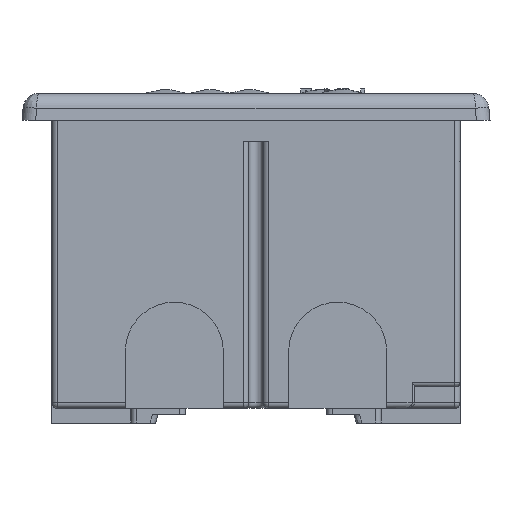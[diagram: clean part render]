
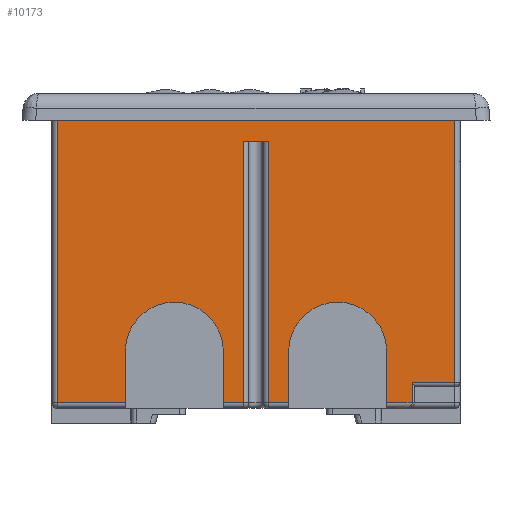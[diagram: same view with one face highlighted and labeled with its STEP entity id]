
A CAD part, front view. The second image highlights one B-rep face of the part: STEP entity #10173.
In plain terms, the highlighted planar face has unit normal (0, -1, 0).
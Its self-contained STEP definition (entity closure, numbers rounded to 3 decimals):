
#649=CIRCLE($,#10666,9.);
#650=CIRCLE($,#10667,9.);
#993=FACE_OUTER_BOUND($,#1373,.T.);
#1373=EDGE_LOOP($,(#7741,#7742,#7743,#7744,#7745,#7746,#7747,#7748,#7749,
#7750,#7751,#7752,#7753,#7754,#7755,#7756,#7757,#7758));
#1849=LINE($,#14162,#3030);
#1866=LINE($,#14288,#3047);
#1868=LINE($,#14346,#3049);
#2024=LINE($,#14741,#3205);
#2025=LINE($,#14742,#3206);
#2026=LINE($,#14744,#3207);
#2027=LINE($,#14747,#3208);
#2028=LINE($,#14749,#3209);
#2029=LINE($,#14751,#3210);
#2030=LINE($,#14753,#3211);
#2031=LINE($,#14755,#3212);
#2032=LINE($,#14757,#3213);
#2033=LINE($,#14759,#3214);
#2034=LINE($,#14761,#3215);
#2035=LINE($,#14764,#3216);
#2036=LINE($,#14765,#3217);
#3030=VECTOR($,#11462,3.7);
#3047=VECTOR($,#11527,3.7);
#3049=VECTOR($,#11535,4.683);
#3205=VECTOR($,#11777,4.6);
#3206=VECTOR($,#11778,48.);
#3207=VECTOR($,#11779,9.5);
#3208=VECTOR($,#11782,9.5);
#3209=VECTOR($,#11783,3.7);
#3210=VECTOR($,#11784,7.817);
#3211=VECTOR($,#11785,48.8);
#3212=VECTOR($,#11786,73.);
#3213=VECTOR($,#11787,52.5);
#3214=VECTOR($,#11788,12.5);
#3215=VECTOR($,#11789,9.5);
#3216=VECTOR($,#11792,9.5);
#3217=VECTOR($,#11793,48.);
#4242=VERTEX_POINT($,#14160);
#4243=VERTEX_POINT($,#14161);
#4275=VERTEX_POINT($,#14285);
#4276=VERTEX_POINT($,#14287);
#4278=VERTEX_POINT($,#14292);
#4280=VERTEX_POINT($,#14296);
#4431=VERTEX_POINT($,#14739);
#4432=VERTEX_POINT($,#14740);
#4433=VERTEX_POINT($,#14743);
#4434=VERTEX_POINT($,#14745);
#4435=VERTEX_POINT($,#14748);
#4436=VERTEX_POINT($,#14750);
#4437=VERTEX_POINT($,#14752);
#4438=VERTEX_POINT($,#14754);
#4439=VERTEX_POINT($,#14756);
#4440=VERTEX_POINT($,#14758);
#4441=VERTEX_POINT($,#14760);
#4442=VERTEX_POINT($,#14762);
#5693=EDGE_CURVE($,#4242,#4243,#1849,.T.);
#5727=EDGE_CURVE($,#4276,#4275,#1866,.T.);
#5732=EDGE_CURVE($,#4278,#4280,#1868,.T.);
#5914=EDGE_CURVE($,#4431,#4432,#2024,.T.);
#5915=EDGE_CURVE($,#4431,#4242,#2025,.T.);
#5916=EDGE_CURVE($,#4433,#4243,#2026,.T.);
#5917=EDGE_CURVE($,#4434,#4433,#649,.T.);
#5918=EDGE_CURVE($,#4434,#4278,#2027,.T.);
#5919=EDGE_CURVE($,#4280,#4435,#2028,.T.);
#5920=EDGE_CURVE($,#4435,#4436,#2029,.T.);
#5921=EDGE_CURVE($,#4436,#4437,#2030,.T.);
#5922=EDGE_CURVE($,#4438,#4437,#2031,.T.);
#5923=EDGE_CURVE($,#4438,#4439,#2032,.T.);
#5924=EDGE_CURVE($,#4439,#4440,#2033,.T.);
#5925=EDGE_CURVE($,#4441,#4440,#2034,.T.);
#5926=EDGE_CURVE($,#4442,#4441,#650,.T.);
#5927=EDGE_CURVE($,#4276,#4442,#2035,.T.);
#5928=EDGE_CURVE($,#4275,#4432,#2036,.T.);
#7741=ORIENTED_EDGE($,*,*,#5914,.F.);
#7742=ORIENTED_EDGE($,*,*,#5915,.T.);
#7743=ORIENTED_EDGE($,*,*,#5693,.T.);
#7744=ORIENTED_EDGE($,*,*,#5916,.F.);
#7745=ORIENTED_EDGE($,*,*,#5917,.F.);
#7746=ORIENTED_EDGE($,*,*,#5918,.T.);
#7747=ORIENTED_EDGE($,*,*,#5732,.T.);
#7748=ORIENTED_EDGE($,*,*,#5919,.T.);
#7749=ORIENTED_EDGE($,*,*,#5920,.T.);
#7750=ORIENTED_EDGE($,*,*,#5921,.T.);
#7751=ORIENTED_EDGE($,*,*,#5922,.F.);
#7752=ORIENTED_EDGE($,*,*,#5923,.T.);
#7753=ORIENTED_EDGE($,*,*,#5924,.T.);
#7754=ORIENTED_EDGE($,*,*,#5925,.F.);
#7755=ORIENTED_EDGE($,*,*,#5926,.F.);
#7756=ORIENTED_EDGE($,*,*,#5927,.F.);
#7757=ORIENTED_EDGE($,*,*,#5727,.T.);
#7758=ORIENTED_EDGE($,*,*,#5928,.T.);
#9944=PLANE($,#10665);
#10173=ADVANCED_FACE($,(#993),#9944,.F.);
#10665=AXIS2_PLACEMENT_3D($,#14738,#11775,#11776);
#10666=AXIS2_PLACEMENT_3D($,#14746,#11780,#11781);
#10667=AXIS2_PLACEMENT_3D($,#14763,#11790,#11791);
#11462=DIRECTION($,(1.,0.,0.));
#11527=DIRECTION($,(1.,0.,0.));
#11535=DIRECTION($,(1.,0.,0.));
#11775=DIRECTION('center_axis',(0.,1.,0.));
#11776=DIRECTION('ref_axis',(-1.,0.,0.));
#11777=DIRECTION($,(-1.,0.,0.));
#11778=DIRECTION($,(0.,0.,-1.));
#11779=DIRECTION($,(0.,0.,-1.));
#11780=DIRECTION('center_axis',(0.,-1.,0.));
#11781=DIRECTION('ref_axis',(1.,0.,0.));
#11782=DIRECTION($,(0.,0.,-1.));
#11783=DIRECTION($,(0.,0.,1.));
#11784=DIRECTION($,(1.,0.,0.));
#11785=DIRECTION($,(0.,0.,1.));
#11786=DIRECTION($,(1.,0.,0.));
#11787=DIRECTION($,(0.,0.,-1.));
#11788=DIRECTION($,(1.,0.,0.));
#11789=DIRECTION($,(0.,0.,-1.));
#11790=DIRECTION('center_axis',(0.,-1.,0.));
#11791=DIRECTION('ref_axis',(-1.,0.,0.));
#11792=DIRECTION($,(0.,0.,1.));
#11793=DIRECTION($,(0.,0.,1.));
#14160=CARTESIAN_POINT('',(2.3,-80.,1.));
#14161=CARTESIAN_POINT('',(6.,-80.,1.));
#14162=CARTESIAN_POINT($,(-37.5,-80.,1.));
#14285=CARTESIAN_POINT('',(-2.3,-80.,1.));
#14287=CARTESIAN_POINT('',(-6.,-80.,1.));
#14288=CARTESIAN_POINT($,(-37.5,-80.,1.));
#14292=CARTESIAN_POINT('',(24.,-80.,1.));
#14296=CARTESIAN_POINT('',(28.683,-80.,1.));
#14346=CARTESIAN_POINT($,(-37.5,-80.,1.));
#14738=CARTESIAN_POINT('Origin',(-37.5,-80.,55.));
#14739=CARTESIAN_POINT('',(2.3,-80.,49.));
#14740=CARTESIAN_POINT('',(-2.3,-80.,49.));
#14741=CARTESIAN_POINT($,(-1.3,-80.,49.));
#14742=CARTESIAN_POINT($,(2.3,-80.,55.));
#14743=CARTESIAN_POINT('',(6.,-80.,10.5));
#14744=CARTESIAN_POINT($,(6.,-80.,0.));
#14745=CARTESIAN_POINT('',(24.,-80.,10.5));
#14746=CARTESIAN_POINT('Origin',(15.,-80.,10.5));
#14747=CARTESIAN_POINT($,(24.,-80.,55.));
#14748=CARTESIAN_POINT('',(28.683,-80.,4.7));
#14749=CARTESIAN_POINT($,(28.683,-80.,55.));
#14750=CARTESIAN_POINT('',(36.5,-80.,4.7));
#14751=CARTESIAN_POINT($,(36.5,-80.,4.7));
#14752=CARTESIAN_POINT('',(36.5,-80.,53.5));
#14753=CARTESIAN_POINT($,(36.5,-80.,55.));
#14754=CARTESIAN_POINT('',(-36.5,-80.,53.5));
#14755=CARTESIAN_POINT($,(-37.5,-80.,53.5));
#14756=CARTESIAN_POINT('',(-36.5,-80.,1.));
#14757=CARTESIAN_POINT($,(-36.5,-80.,55.));
#14758=CARTESIAN_POINT('',(-24.,-80.,1.));
#14759=CARTESIAN_POINT($,(-37.5,-80.,1.));
#14760=CARTESIAN_POINT('',(-24.,-80.,10.5));
#14761=CARTESIAN_POINT($,(-24.,-80.,0.));
#14762=CARTESIAN_POINT('',(-6.,-80.,10.5));
#14763=CARTESIAN_POINT('Origin',(-15.,-80.,10.5));
#14764=CARTESIAN_POINT($,(-6.,-80.,0.));
#14765=CARTESIAN_POINT($,(-2.3,-80.,55.));
